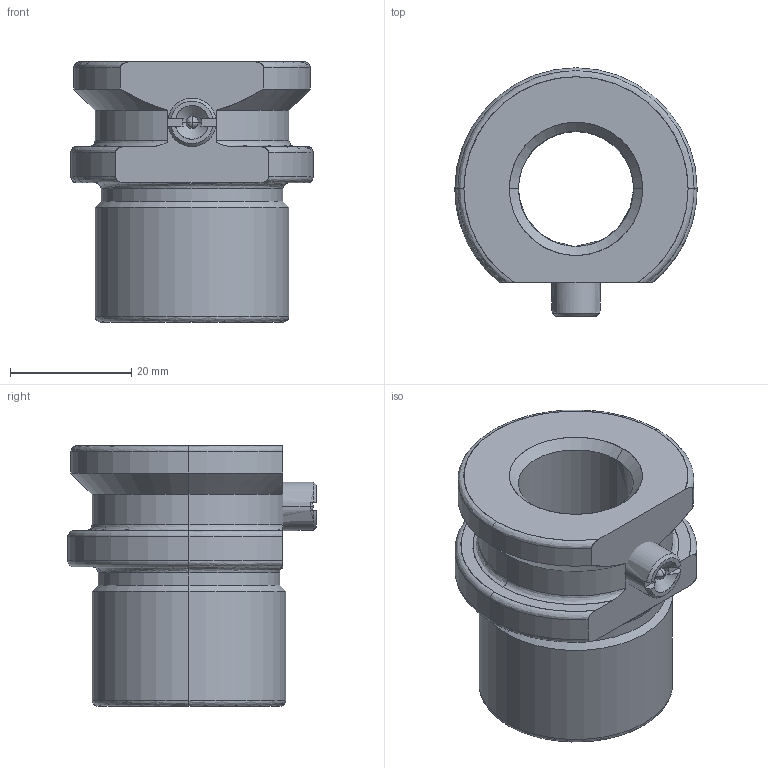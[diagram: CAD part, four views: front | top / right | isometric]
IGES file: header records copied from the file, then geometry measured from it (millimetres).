
Start section: START RECORD GO HERE.
Global section: file name: 744-19.igs; native system: DASSAULT SYSTEMES CATIA V5 R20 - www.3ds.com; preprocessor: CATIA Version 5 Release 20 ; author: Utente; organization: NB04-ASUS; date: 20201223.222633; units: millimetre
Bounding box: 40 x 41 x 43 mm (x, y, z)
Surface area: 9584.1 mm2 (no closed solid volume)
Topology: 0 solids, 0 shells, 73 faces, 354 edges, 350 vertices
Faces by surface type: revolution 58, plane 15
